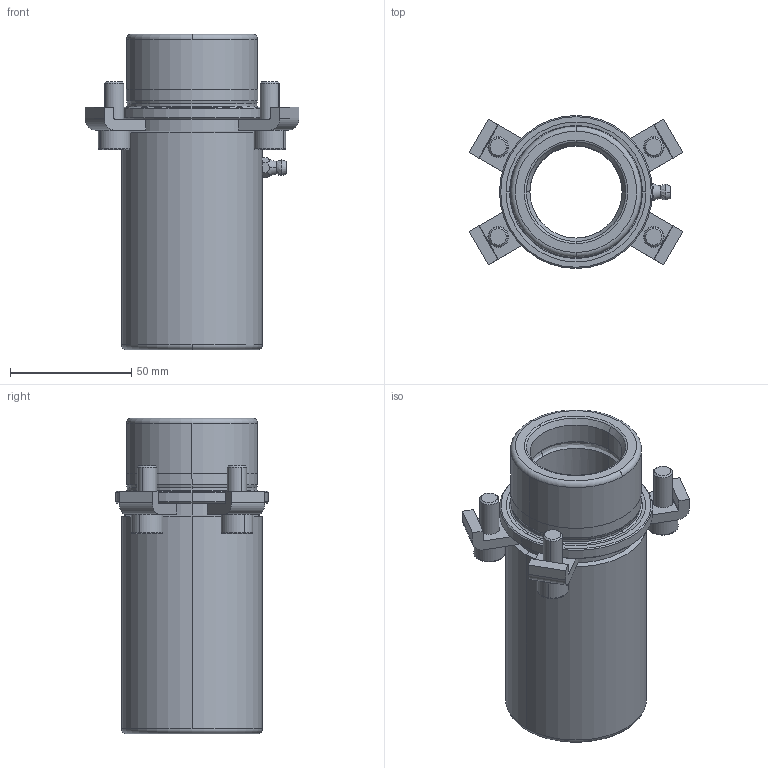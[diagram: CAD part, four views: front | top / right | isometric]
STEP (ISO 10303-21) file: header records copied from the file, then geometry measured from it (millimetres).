
FILE_DESCRIPTION((''),'2;1');
FILE_NAME('B10_038_100.stp','2008-11-06T08:53:52',(''),(''),'Mechanical Desktop 2009','Mechanical Desktop 2009',', , ');
FILE_SCHEMA(('CONFIG_CONTROL_DESIGN'));
Length unit declared in the file: millimetre
Products named in the file (2): Product; blmdl1
Assembly tree (1 placements, depth 2):
  Product
    blmdl1
Bounding box: 88.14 x 63 x 130 mm (x, y, z)
Volume: 197543.1 mm3; surface area: 52525.8 mm2
Topology: 10 solids, 10 shells, 210 faces, 529 edges, 348 vertices
Faces by surface type: plane 90, cylinder 60, cone 24, bspline 18, torus 18
Entity records: 7642 total; most frequent: CARTESIAN_POINT 2348, DIRECTION 1151, ORIENTED_EDGE 1050, EDGE_CURVE 525, AXIS2_PLACEMENT_3D 449, VERTEX_POINT 346, CIRCLE 255, VECTOR 253
